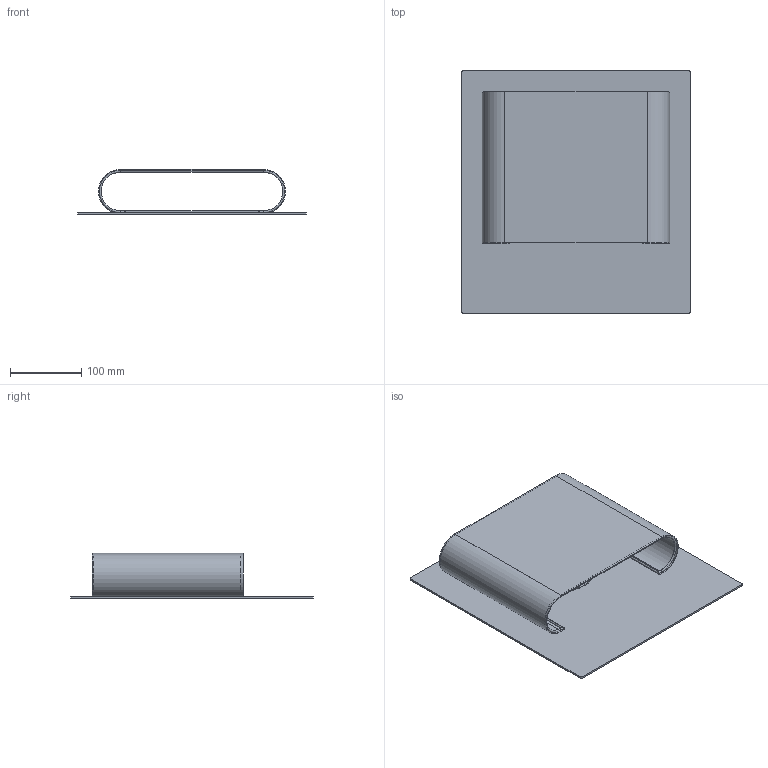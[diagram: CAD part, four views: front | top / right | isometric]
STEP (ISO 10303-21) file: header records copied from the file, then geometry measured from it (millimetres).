
FILE_DESCRIPTION (( 'STEP AP214' ), '1' );
FILE_NAME ('Elwood Landscape Indoor - Lightweight.STEP', '2023-09-04T04:13:37', ( '' ), ( '' ), 'SwSTEP 2.0', 'SolidWorks 2017', '' );
FILE_SCHEMA (( 'AUTOMOTIVE_DESIGN' ));
Length unit declared in the file: millimetre
Products named in the file (1): Elwood Landscape Indoor - Lightweight
Bounding box: 320 x 340 x 63.5 mm (x, y, z)
Volume: 376423.1 mm3; surface area: 414181 mm2
Topology: 5 solids, 5 shells, 64 faces, 144 edges, 88 vertices
Faces by surface type: cylinder 32, plane 24, torus 8
Entity records: 2554 total; most frequent: DIRECTION 322, CARTESIAN_POINT 321, ORIENTED_EDGE 288, EDGE_CURVE 144, AXIS2_PLACEMENT_3D 121, VERTEX_POINT 88, VECTOR 80, LINE 80
